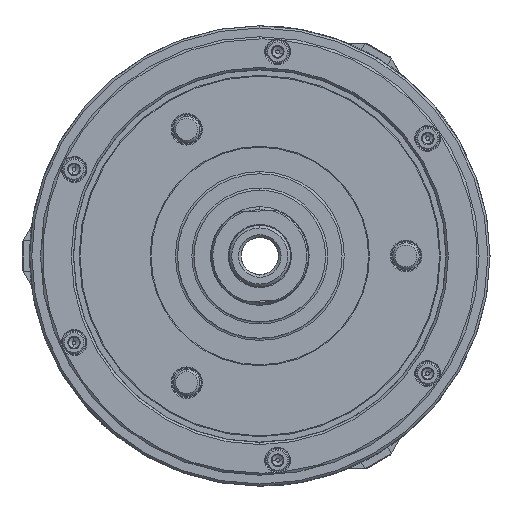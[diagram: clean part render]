
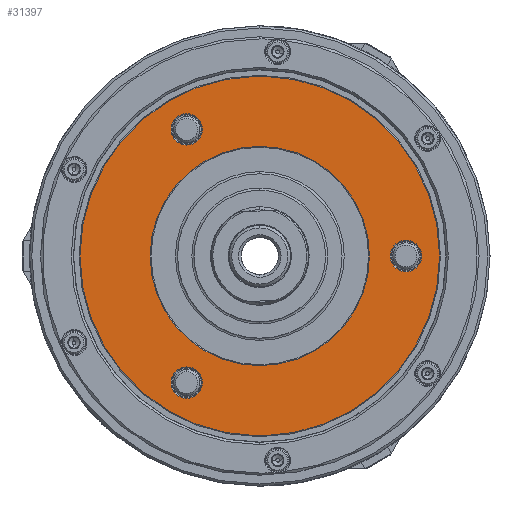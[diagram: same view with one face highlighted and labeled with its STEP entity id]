
A CAD part, left-side view. The second image highlights one B-rep face of the part: STEP entity #31397.
In plain terms, the highlighted planar face has unit normal (-1, 0, 0).
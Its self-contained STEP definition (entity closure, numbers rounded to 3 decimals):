
#919 = CARTESIAN_POINT ( 'NONE',  ( -93.5, 0., 0. ) ) ;
#1984 = VERTEX_POINT ( 'NONE', #96386 ) ;
#3774 = DIRECTION ( 'NONE',  ( 0., 0., -1. ) ) ;
#6586 = EDGE_CURVE ( 'NONE', #18757, #116124, #182139, .T. ) ;
#6997 = ORIENTED_EDGE ( 'NONE', *, *, #210313, .T. ) ;
#7977 = EDGE_CURVE ( 'NONE', #12228, #154722, #156322, .T. ) ;
#9071 = CARTESIAN_POINT ( 'NONE',  ( -93.5, -1.401, 81.988 ) ) ;
#9477 = CARTESIAN_POINT ( 'NONE',  ( -93.5, 33.338, 57.742 ) ) ;
#12228 = VERTEX_POINT ( 'NONE', #203345 ) ;
#13558 = CARTESIAN_POINT ( 'NONE',  ( -93.5, 33.338, 64.892 ) ) ;
#14789 = CIRCLE ( 'NONE', #97604, 7.15 ) ;
#15158 = CARTESIAN_POINT ( 'NONE',  ( -93.5, 33.337, -57.742 ) ) ;
#15807 = ORIENTED_EDGE ( 'NONE', *, *, #7977, .T. ) ;
#16139 = CARTESIAN_POINT ( 'NONE',  ( -93.5, 0., 0. ) ) ;
#16903 = CARTESIAN_POINT ( 'NONE',  ( -93.5, 1.401, 81.988 ) ) ;
#17208 = DIRECTION ( 'NONE',  ( 0., 0., -1. ) ) ;
#17315 = FACE_BOUND ( 'NONE', #196548, .T. ) ;
#18068 = DIRECTION ( 'NONE',  ( 1., 0., 0. ) ) ;
#18446 = AXIS2_PLACEMENT_3D ( 'NONE', #115101, #18068, #131366 ) ;
#18757 = VERTEX_POINT ( 'NONE', #16903 ) ;
#19509 = ORIENTED_EDGE ( 'NONE', *, *, #26600, .F. ) ;
#22466 = CARTESIAN_POINT ( 'NONE',  ( -93.5, 0., 0. ) ) ;
#23350 = CIRCLE ( 'NONE', #40998, 7.15 ) ;
#24747 = CARTESIAN_POINT ( 'NONE',  ( -93.5, 33.338, 50.592 ) ) ;
#25715 = DIRECTION ( 'NONE',  ( 0., 0., -1. ) ) ;
#26597 = DIRECTION ( 'NONE',  ( 1., 0., 0. ) ) ;
#26600 = EDGE_CURVE ( 'NONE', #116124, #132789, #194273, .T. ) ;
#31346 = CARTESIAN_POINT ( 'NONE',  ( -93.5, 33.338, 57.742 ) ) ;
#31397 = ADVANCED_FACE ( 'NONE', ( #151643, #17315, #60449, #184622, #141443 ), #184438, .F. ) ;
#31433 = DIRECTION ( 'NONE',  ( 0., 0., -1. ) ) ;
#32396 = DIRECTION ( 'NONE',  ( 0., 0., -1. ) ) ;
#37648 = AXIS2_PLACEMENT_3D ( 'NONE', #123590, #26597, #139906 ) ;
#38783 = DIRECTION ( 'NONE',  ( 0., 0., -1. ) ) ;
#38787 = CIRCLE ( 'NONE', #50292, 7.15 ) ;
#38809 = CIRCLE ( 'NONE', #37648, 82. ) ;
#40998 = AXIS2_PLACEMENT_3D ( 'NONE', #15158, #128433, #31433 ) ;
#43494 = ORIENTED_EDGE ( 'NONE', *, *, #71196, .F. ) ;
#45196 = CARTESIAN_POINT ( 'NONE',  ( -93.5, 0., 0. ) ) ;
#45959 = EDGE_CURVE ( 'NONE', #151720, #136652, #38787, .T. ) ;
#47614 = EDGE_CURVE ( 'NONE', #96393, #83615, #23350, .T. ) ;
#47645 = DIRECTION ( 'NONE',  ( 0., 0., -1. ) ) ;
#50292 = AXIS2_PLACEMENT_3D ( 'NONE', #9477, #122720, #25715 ) ;
#52707 = AXIS2_PLACEMENT_3D ( 'NONE', #62068, #175392, #78355 ) ;
#53029 = EDGE_LOOP ( 'NONE', ( #66130, #85068 ) ) ;
#54926 = VERTEX_POINT ( 'NONE', #197069 ) ;
#55126 = AXIS2_PLACEMENT_3D ( 'NONE', #45196, #158514, #61512 ) ;
#56791 = VERTEX_POINT ( 'NONE', #78849 ) ;
#60449 = FACE_BOUND ( 'NONE', #53029, .T. ) ;
#60577 = EDGE_CURVE ( 'NONE', #54926, #1984, #120100, .T. ) ;
#60878 = CIRCLE ( 'NONE', #209685, 82. ) ;
#61512 = DIRECTION ( 'NONE',  ( 0., 0., -1. ) ) ;
#62068 = CARTESIAN_POINT ( 'NONE',  ( -93.5, -66.675, 0. ) ) ;
#66130 = ORIENTED_EDGE ( 'NONE', *, *, #166644, .T. ) ;
#70087 = AXIS2_PLACEMENT_3D ( 'NONE', #168086, #200795, #103716 ) ;
#71196 = EDGE_CURVE ( 'NONE', #56791, #165200, #60878, .T. ) ;
#78355 = DIRECTION ( 'NONE',  ( 0., 0., -1. ) ) ;
#78849 = CARTESIAN_POINT ( 'NONE',  ( -93.5, 0., -82. ) ) ;
#80403 = AXIS2_PLACEMENT_3D ( 'NONE', #919, #114233, #17208 ) ;
#82049 = CARTESIAN_POINT ( 'NONE',  ( -93.5, -66.675, 0. ) ) ;
#83615 = VERTEX_POINT ( 'NONE', #208726 ) ;
#83785 = AXIS2_PLACEMENT_3D ( 'NONE', #16139, #129409, #32396 ) ;
#85068 = ORIENTED_EDGE ( 'NONE', *, *, #47614, .T. ) ;
#86133 = CIRCLE ( 'NONE', #134082, 7.15 ) ;
#93215 = CARTESIAN_POINT ( 'NONE',  ( -93.5, -1.401, -81.988 ) ) ;
#95392 = DIRECTION ( 'NONE',  ( 1., 0., 0. ) ) ;
#96386 = CARTESIAN_POINT ( 'NONE',  ( -93.5, 0., 50. ) ) ;
#96393 = VERTEX_POINT ( 'NONE', #172359 ) ;
#97604 = AXIS2_PLACEMENT_3D ( 'NONE', #82049, #195452, #98377 ) ;
#98377 = DIRECTION ( 'NONE',  ( 0., 0., -1. ) ) ;
#100160 = ORIENTED_EDGE ( 'NONE', *, *, #124720, .F. ) ;
#100847 = DIRECTION ( 'NONE',  ( 1., 0., 0. ) ) ;
#103716 = DIRECTION ( 'NONE',  ( 0., 0., -1. ) ) ;
#106164 = CIRCLE ( 'NONE', #18446, 82. ) ;
#106731 = EDGE_LOOP ( 'NONE', ( #195952, #15807 ) ) ;
#114233 = DIRECTION ( 'NONE',  ( 1., 0., 0. ) ) ;
#115101 = CARTESIAN_POINT ( 'NONE',  ( -93.5, 0., 0. ) ) ;
#115328 = EDGE_CURVE ( 'NONE', #132789, #56791, #106164, .T. ) ;
#116124 = VERTEX_POINT ( 'NONE', #9071 ) ;
#120100 = CIRCLE ( 'NONE', #122604, 50. ) ;
#122604 = AXIS2_PLACEMENT_3D ( 'NONE', #192483, #95392, #208781 ) ;
#122720 = DIRECTION ( 'NONE',  ( 1., 0., 0. ) ) ;
#122857 = CIRCLE ( 'NONE', #55126, 50. ) ;
#123590 = CARTESIAN_POINT ( 'NONE',  ( -93.5, 0., 0. ) ) ;
#124720 = EDGE_CURVE ( 'NONE', #165200, #18757, #38809, .T. ) ;
#128433 = DIRECTION ( 'NONE',  ( 1., 0., 0. ) ) ;
#129409 = DIRECTION ( 'NONE',  ( 1., 0., 0. ) ) ;
#131366 = DIRECTION ( 'NONE',  ( 0., 0., -1. ) ) ;
#132789 = VERTEX_POINT ( 'NONE', #93215 ) ;
#134082 = AXIS2_PLACEMENT_3D ( 'NONE', #31346, #144661, #47645 ) ;
#135784 = DIRECTION ( 'NONE',  ( 1., 0., 0. ) ) ;
#136652 = VERTEX_POINT ( 'NONE', #24747 ) ;
#139906 = DIRECTION ( 'NONE',  ( 0., 0., -1. ) ) ;
#141443 = FACE_BOUND ( 'NONE', #106731, .T. ) ;
#143814 = EDGE_CURVE ( 'NONE', #1984, #54926, #122857, .T. ) ;
#144661 = DIRECTION ( 'NONE',  ( 1., 0., 0. ) ) ;
#145575 = ORIENTED_EDGE ( 'NONE', *, *, #60577, .T. ) ;
#150957 = AXIS2_PLACEMENT_3D ( 'NONE', #197926, #100847, #3774 ) ;
#151643 = FACE_OUTER_BOUND ( 'NONE', #158282, .T. ) ;
#151720 = VERTEX_POINT ( 'NONE', #13558 ) ;
#154290 = ORIENTED_EDGE ( 'NONE', *, *, #115328, .F. ) ;
#154722 = VERTEX_POINT ( 'NONE', #185062 ) ;
#154895 = CARTESIAN_POINT ( 'NONE',  ( -93.5, 1.401, -81.988 ) ) ;
#156322 = CIRCLE ( 'NONE', #52707, 7.15 ) ;
#158282 = EDGE_LOOP ( 'NONE', ( #154290, #19509, #173486, #100160, #43494 ) ) ;
#158514 = DIRECTION ( 'NONE',  ( 1., 0., 0. ) ) ;
#165200 = VERTEX_POINT ( 'NONE', #154895 ) ;
#166644 = EDGE_CURVE ( 'NONE', #83615, #96393, #183384, .T. ) ;
#168086 = CARTESIAN_POINT ( 'NONE',  ( -93.5, -82., 0. ) ) ;
#169911 = ORIENTED_EDGE ( 'NONE', *, *, #143814, .T. ) ;
#172359 = CARTESIAN_POINT ( 'NONE',  ( -93.5, 33.337, -64.892 ) ) ;
#172995 = EDGE_LOOP ( 'NONE', ( #196230, #6997 ) ) ;
#173486 = ORIENTED_EDGE ( 'NONE', *, *, #6586, .F. ) ;
#175392 = DIRECTION ( 'NONE',  ( 1., 0., 0. ) ) ;
#182139 = CIRCLE ( 'NONE', #83785, 82. ) ;
#183384 = CIRCLE ( 'NONE', #150957, 7.15 ) ;
#184438 = PLANE ( 'NONE',  #70087 ) ;
#184622 = FACE_BOUND ( 'NONE', #172995, .T. ) ;
#185062 = CARTESIAN_POINT ( 'NONE',  ( -93.5, -66.675, 7.15 ) ) ;
#192483 = CARTESIAN_POINT ( 'NONE',  ( -93.5, 0., 0. ) ) ;
#194273 = CIRCLE ( 'NONE', #80403, 82. ) ;
#195452 = DIRECTION ( 'NONE',  ( 1., 0., 0. ) ) ;
#195952 = ORIENTED_EDGE ( 'NONE', *, *, #199262, .T. ) ;
#196230 = ORIENTED_EDGE ( 'NONE', *, *, #45959, .T. ) ;
#196548 = EDGE_LOOP ( 'NONE', ( #169911, #145575 ) ) ;
#197069 = CARTESIAN_POINT ( 'NONE',  ( -93.5, 0., -50. ) ) ;
#197926 = CARTESIAN_POINT ( 'NONE',  ( -93.5, 33.337, -57.742 ) ) ;
#199262 = EDGE_CURVE ( 'NONE', #154722, #12228, #14789, .T. ) ;
#200795 = DIRECTION ( 'NONE',  ( 1., 0., 0. ) ) ;
#203345 = CARTESIAN_POINT ( 'NONE',  ( -93.5, -66.675, -7.15 ) ) ;
#208726 = CARTESIAN_POINT ( 'NONE',  ( -93.5, 33.337, -50.592 ) ) ;
#208781 = DIRECTION ( 'NONE',  ( 0., 0., -1. ) ) ;
#209685 = AXIS2_PLACEMENT_3D ( 'NONE', #22466, #135784, #38783 ) ;
#210313 = EDGE_CURVE ( 'NONE', #136652, #151720, #86133, .T. ) ;
